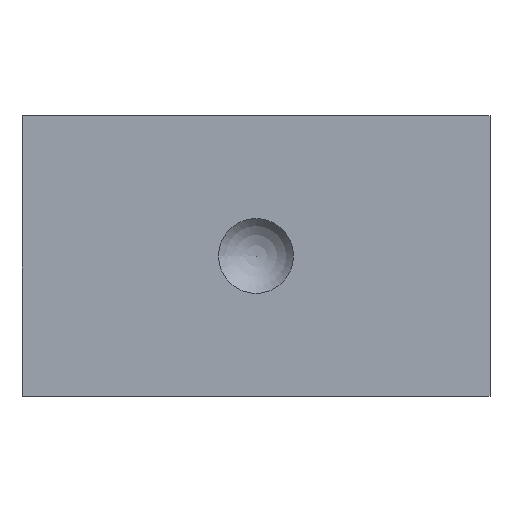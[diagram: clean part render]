
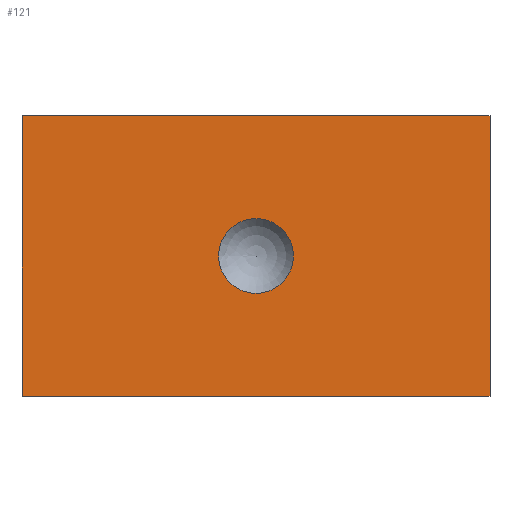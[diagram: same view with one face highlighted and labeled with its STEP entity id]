
A CAD part, top view. The second image highlights one B-rep face of the part: STEP entity #121.
In plain terms, the highlighted planar face has unit normal (0, 0, 1).
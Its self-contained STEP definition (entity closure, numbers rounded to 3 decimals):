
#15=FACE_BOUND('',#59,.T.);
#18=LINE('',#197,#30);
#21=LINE('',#203,#33);
#24=LINE('',#209,#36);
#27=LINE('',#213,#39);
#30=VECTOR('',#164,10.);
#33=VECTOR('',#169,10.);
#36=VECTOR('',#174,10.);
#39=VECTOR('',#179,10.);
#44=PLANE('',#150);
#51=FACE_OUTER_BOUND('',#58,.T.);
#58=EDGE_LOOP('',(#106,#107,#108,#109));
#59=EDGE_LOOP('',(#110));
#61=CIRCLE('',#144,20.);
#63=VERTEX_POINT('',#186);
#67=VERTEX_POINT('',#194);
#68=VERTEX_POINT('',#196);
#70=VERTEX_POINT('',#202);
#72=VERTEX_POINT('',#208);
#73=EDGE_CURVE('',#63,#63,#61,.T.);
#77=EDGE_CURVE('',#68,#67,#18,.T.);
#80=EDGE_CURVE('',#70,#68,#21,.T.);
#83=EDGE_CURVE('',#72,#70,#24,.T.);
#86=EDGE_CURVE('',#67,#72,#27,.T.);
#106=ORIENTED_EDGE('',*,*,#86,.T.);
#107=ORIENTED_EDGE('',*,*,#83,.T.);
#108=ORIENTED_EDGE('',*,*,#80,.T.);
#109=ORIENTED_EDGE('',*,*,#77,.T.);
#110=ORIENTED_EDGE('',*,*,#73,.T.);
#121=ADVANCED_FACE('',(#51,#15),#44,.T.);
#144=AXIS2_PLACEMENT_3D('',#187,#156,#157);
#150=AXIS2_PLACEMENT_3D('',#214,#180,#181);
#156=DIRECTION('center_axis',(0.,0.,-1.));
#157=DIRECTION('ref_axis',(0.,1.,0.));
#164=DIRECTION('',(1.,0.,0.));
#169=DIRECTION('',(0.,-1.,0.));
#174=DIRECTION('',(-1.,0.,0.));
#179=DIRECTION('',(0.,1.,0.));
#180=DIRECTION('center_axis',(0.,0.,1.));
#181=DIRECTION('ref_axis',(1.,0.,0.));
#186=CARTESIAN_POINT('',(105.,75.,20.));
#187=CARTESIAN_POINT('Origin',(125.,75.,20.));
#194=CARTESIAN_POINT('',(250.,0.,20.));
#196=CARTESIAN_POINT('',(0.,0.,20.));
#197=CARTESIAN_POINT('',(0.,0.,20.));
#202=CARTESIAN_POINT('',(0.,150.,20.));
#203=CARTESIAN_POINT('',(0.,150.,20.));
#208=CARTESIAN_POINT('',(250.,150.,20.));
#209=CARTESIAN_POINT('',(250.,150.,20.));
#213=CARTESIAN_POINT('',(250.,0.,20.));
#214=CARTESIAN_POINT('Origin',(125.,75.,20.));
